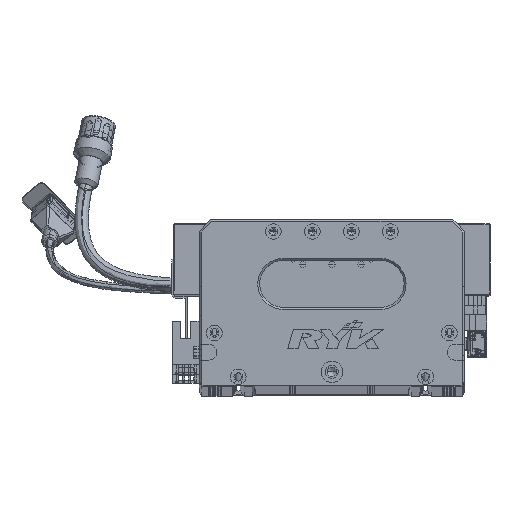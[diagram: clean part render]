
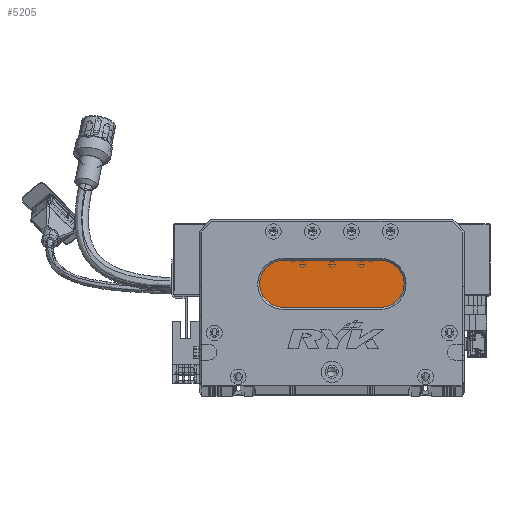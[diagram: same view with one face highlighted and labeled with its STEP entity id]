
A CAD part, top view. The second image highlights one B-rep face of the part: STEP entity #5205.
In plain terms, the highlighted planar face has unit normal (0, 0, 1) as drawn and (0, 0, -1) by its records, which use the part's own axes.
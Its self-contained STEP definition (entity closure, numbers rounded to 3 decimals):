
#3030 = ORIENTED_EDGE ( 'NONE', *, *, #130192, .T. ) ;
#3065 = LINE ( 'NONE', #14236, #4662 ) ;
#4662 = VECTOR ( 'NONE', #100961, 1000. ) ;
#5205 = ADVANCED_FACE ( 'NONE', ( #104171 ), #108017, .T. ) ;
#5511 = CIRCLE ( 'NONE', #6174, 12. ) ;
#6174 = AXIS2_PLACEMENT_3D ( 'NONE', #58069, #26945, #15225 ) ;
#12912 = CARTESIAN_POINT ( 'NONE',  ( 93., 64., 13. ) ) ;
#14236 = CARTESIAN_POINT ( 'NONE',  ( 93., 64., 13. ) ) ;
#15225 = DIRECTION ( 'NONE',  ( -1., 0., 0. ) ) ;
#15276 = DIRECTION ( 'NONE',  ( -1., 0., 0. ) ) ;
#18612 = LINE ( 'NONE', #42984, #126427 ) ;
#18881 = VERTEX_POINT ( 'NONE', #12912 ) ;
#18997 = EDGE_CURVE ( 'NONE', #18881, #86738, #5511, .T. ) ;
#19150 = CARTESIAN_POINT ( 'NONE',  ( 93., 40., 13. ) ) ;
#25145 = DIRECTION ( 'NONE',  ( 0., 0., -1. ) ) ;
#26945 = DIRECTION ( 'NONE',  ( 0., 0., -1. ) ) ;
#29213 = ORIENTED_EDGE ( 'NONE', *, *, #57552, .T. ) ;
#30743 = CARTESIAN_POINT ( 'NONE',  ( 93., 52., 13. ) ) ;
#32578 = DIRECTION ( 'NONE',  ( -1., 0., 0. ) ) ;
#35779 = EDGE_CURVE ( 'NONE', #86738, #81090, #18612, .T. ) ;
#36124 = AXIS2_PLACEMENT_3D ( 'NONE', #30743, #52880, #106653 ) ;
#37054 = DIRECTION ( 'NONE',  ( -1., 0., 0. ) ) ;
#37982 = DIRECTION ( 'NONE',  ( 0., 0., -1. ) ) ;
#38479 = ORIENTED_EDGE ( 'NONE', *, *, #127649, .T. ) ;
#42984 = CARTESIAN_POINT ( 'NONE',  ( 93., 40., 13. ) ) ;
#43166 = EDGE_LOOP ( 'NONE', ( #62452, #85470, #3030, #29213, #38479 ) ) ;
#43853 = AXIS2_PLACEMENT_3D ( 'NONE', #82277, #37982, #37054 ) ;
#52880 = DIRECTION ( 'NONE',  ( 0., 0., -1. ) ) ;
#57552 = EDGE_CURVE ( 'NONE', #68582, #62074, #135342, .T. ) ;
#58069 = CARTESIAN_POINT ( 'NONE',  ( 93., 52., 13. ) ) ;
#62074 = VERTEX_POINT ( 'NONE', #130424 ) ;
#62452 = ORIENTED_EDGE ( 'NONE', *, *, #18997, .T. ) ;
#68582 = VERTEX_POINT ( 'NONE', #76743 ) ;
#76743 = CARTESIAN_POINT ( 'NONE',  ( 31., 52., 13. ) ) ;
#81090 = VERTEX_POINT ( 'NONE', #95884 ) ;
#82277 = CARTESIAN_POINT ( 'NONE',  ( 43., 52., 13. ) ) ;
#85470 = ORIENTED_EDGE ( 'NONE', *, *, #35779, .T. ) ;
#86738 = VERTEX_POINT ( 'NONE', #19150 ) ;
#95884 = CARTESIAN_POINT ( 'NONE',  ( 43., 40., 13. ) ) ;
#100961 = DIRECTION ( 'NONE',  ( 1., 0., 0. ) ) ;
#104171 = FACE_OUTER_BOUND ( 'NONE', #43166, .T. ) ;
#106653 = DIRECTION ( 'NONE',  ( -1., 0., 0. ) ) ;
#108017 = PLANE ( 'NONE',  #36124 ) ;
#111867 = CARTESIAN_POINT ( 'NONE',  ( 43., 52., 13. ) ) ;
#112180 = CIRCLE ( 'NONE', #43853, 12. ) ;
#124010 = AXIS2_PLACEMENT_3D ( 'NONE', #111867, #25145, #15276 ) ;
#126427 = VECTOR ( 'NONE', #32578, 1000. ) ;
#127649 = EDGE_CURVE ( 'NONE', #62074, #18881, #3065, .T. ) ;
#130192 = EDGE_CURVE ( 'NONE', #81090, #68582, #112180, .T. ) ;
#130424 = CARTESIAN_POINT ( 'NONE',  ( 43., 64., 13. ) ) ;
#135342 = CIRCLE ( 'NONE', #124010, 12. ) ;
